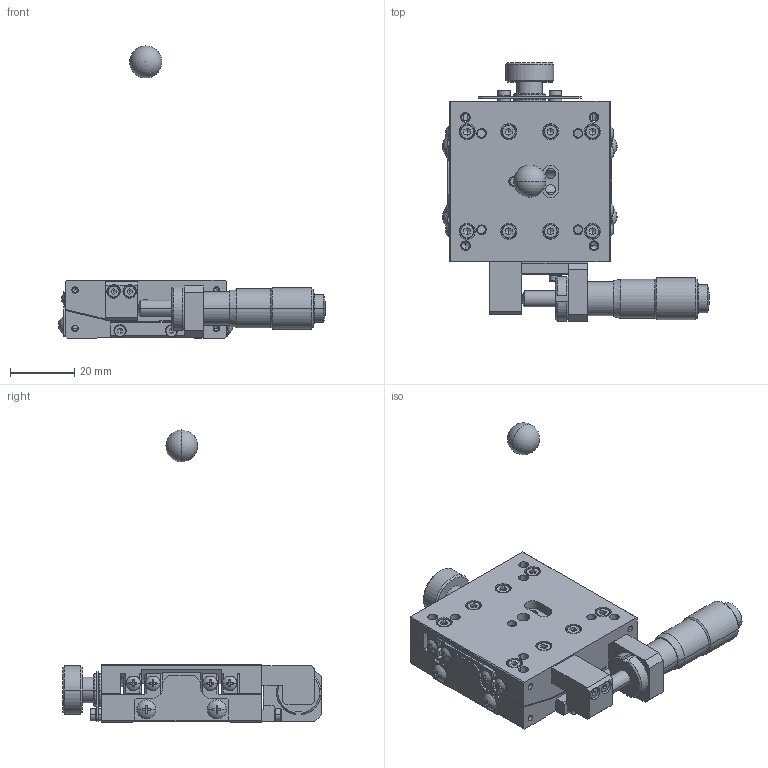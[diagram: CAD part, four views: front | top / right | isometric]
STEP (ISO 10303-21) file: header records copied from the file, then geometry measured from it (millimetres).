
FILE_DESCRIPTION (( 'STEP AP214' ), '1' );
FILE_NAME ('ST05A-S1M.STEP', '2007-01-19T00:23:08', ( ' ' ), ( ' ' ), 'SwSTEP 2.0', 'SolidWorks 2006052', '' );
FILE_SCHEMA (( 'AUTOMOTIVE_DESIGN' ));
Length unit declared in the file: millimetre
Products named in the file (5): ST05A-S1M-Part-1; 002570-1010(3D); MICROMETERHEAD(MHS4-13)spindle-2; 002570-1020(3D); ST05A-S1M
Assembly tree (4 placements, depth 2):
  ST05A-S1M
    002570-1010(3D)
    ST05A-S1M-Part-1
    002570-1020(3D)
    MICROMETERHEAD(MHS4-13)spindle-2
Bounding box: 83.18 x 80.5 x 91 mm (x, y, z)
Volume: 47005.6 mm3; surface area: 32760.9 mm2
Topology: 4 solids, 37 shells, 1768 faces, 4312 edges, 2584 vertices
Faces by surface type: plane 769, cylinder 573, cone 328, torus 68, sphere 30
Entity records: 54678 total; most frequent: CARTESIAN_POINT 13024, DIRECTION 9015, ORIENTED_EDGE 8414, EDGE_CURVE 4207, AXIS2_PLACEMENT_3D 3477, VERTEX_POINT 2581, VECTOR 2061, LINE 2061
